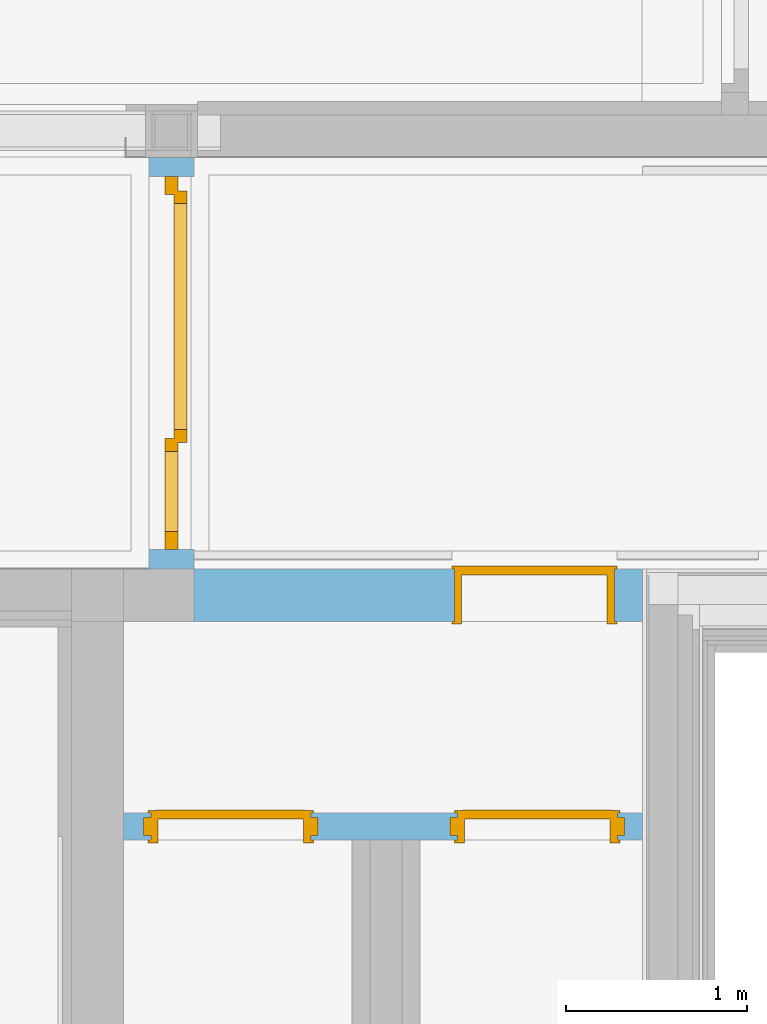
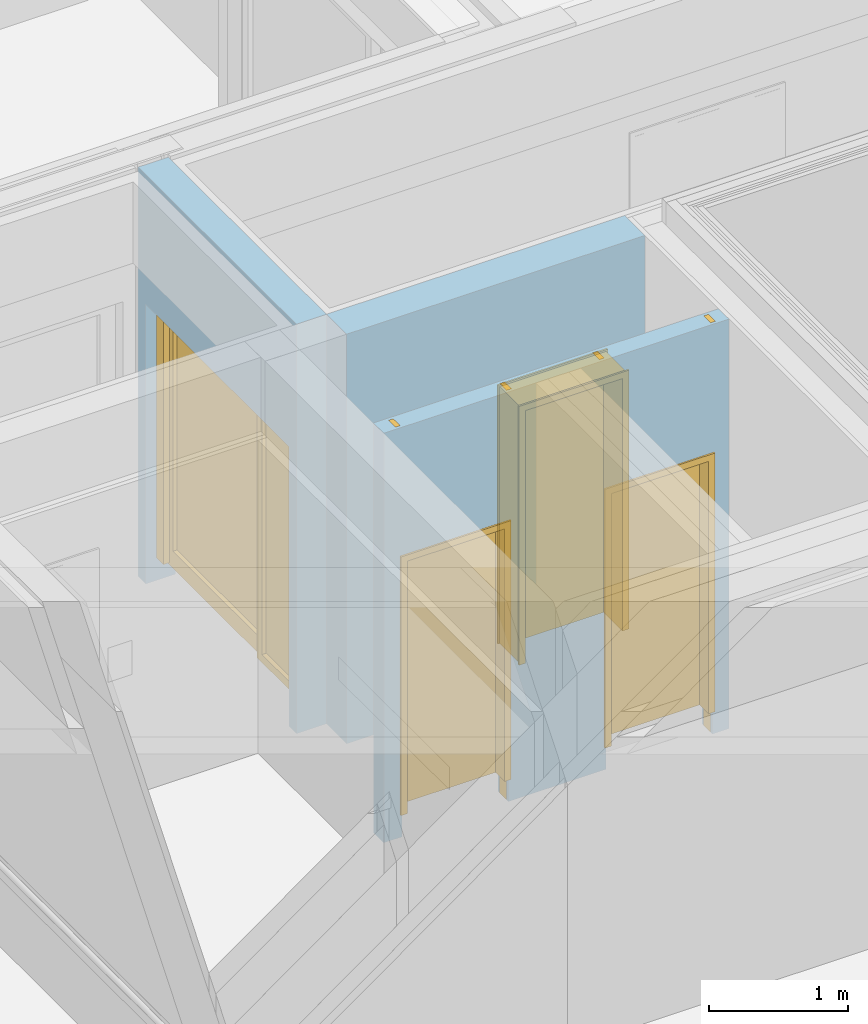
# One storey, part 102 of 207: 4 doors, 4 openings, plus 3 elements that do not belong to this part.
"""IFC4 building model written with IfcOpenShell, lengths in metres."""

from ifc_helpers import new_model, entity, si_unit, converted_unit, derived_unit, frame, frame_2d, origin, origin_with_axes, place, context, subcontext, project, spatial, polyline, rectangle, outline, extrude, closed_shell, open_shell, faceted_brep, surface_model, source, transform, mapped, material, type_object, element, fill, save


model = new_model("IFC4")

# Units and contexts
model_context = context("Model", 3, precision=1e-05, world=origin())
body_context = subcontext(model_context, "Body", "Model", "MODEL_VIEW")
ifc_project = project(units=[si_unit("LENGTHUNIT", "METRE"), si_unit("AREAUNIT", "SQUARE_METRE"), si_unit("VOLUMEUNIT", "CUBIC_METRE"), si_unit("MASSUNIT", "GRAM", prefix="KILO"), converted_unit("PLANEANGLEUNIT", "DEGREE", entity("IfcPlaneAngleMeasure", 0.0174532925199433), si_unit("PLANEANGLEUNIT", "RADIAN"), dimensions=[0, 0, 0, 0, 0, 0, 0]), derived_unit("THERMALTRANSMITTANCEUNIT", [(si_unit("POWERUNIT", "WATT"), 1), (si_unit("THERMODYNAMICTEMPERATUREUNIT", "KELVIN"), -1), (si_unit("LENGTHUNIT", "METRE"), -2)]), derived_unit("VOLUMETRICFLOWRATEUNIT", [(si_unit("LENGTHUNIT", "METRE"), 3), (converted_unit("TIMEUNIT", "hour", entity("IfcTimeMeasure", 3600.0), si_unit("TIMEUNIT", "SECOND"), dimensions=[0, 0, 1, 0, 0, 0, 0]), -1), (si_unit("LENGTHUNIT", "METRE"), -1)])], contexts=[model_context])

# Site, building, storey
site_placement = place(None, origin())
site = spatial("IfcSite", under=ifc_project, at=site_placement, Name="Psychiatrie Neubau Wunstorf", CompositionType="ELEMENT")
building_placement = place(site_placement, origin())
building = spatial("IfcBuilding", under=site, at=building_placement, Name="Neubau H2 Stationsgebäude", CompositionType="ELEMENT")
storey_placement = place(building_placement, frame((0.0, 0.0, -0.2)))
storey = spatial("IfcBuildingStorey", under=building, at=storey_placement, Name="H2 Ebene 0", CompositionType="ELEMENT", Elevation=-0.2)

# Wall, openings, doors
ifc_material_1 = material(Name="WI-LB")
wall_1_placement = place(storey_placement, frame((43.9390000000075, 19.2350060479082, 0.0), z_axis=(0.0, 0.0, 1.0), x_axis=(-1.0, 0.0, 0.0)))
wall_1 = element("IfcWall", 1, at=wall_1_placement, inside=storey, material=ifc_material_1, context=body_context, shape_type="SweptSolid", body=[
    extrude(rectangle(XDim=2.87, YDim=0.15, at=frame_2d((1.435, 0.075), x_axis=(1.0, 0.0))), origin_with_axes(), (0.0, 0.0, 1.0), 3.6),
])
opening_1_placement = place(wall_1_placement, frame((2.72, 0.15, 0.0), z_axis=(0.0, -1.0, 0.0), x_axis=(0.0, 0.0, 1.0)))
opening_1 = element("IfcOpeningElement", 2, at=opening_1_placement, cuts=wall_1, Name="Türöffnung", ObjectType="Opening", context=body_context, shape_type="SweptSolid", body=[
    extrude(outline(polyline([(2.46, 0.885), (2.46, 0.0), (0.0, 0.0), (0.0, 0.885), (2.46, 0.885)])), origin_with_axes(), (0.0, 0.0, 1.0), 0.15),
])
opening_2_placement = place(wall_1_placement, frame((1.024, 0.15, 0.0), z_axis=(0.0, -1.0, 0.0), x_axis=(0.0, 0.0, 1.0)))
opening_2 = element("IfcOpeningElement", 3, at=opening_2_placement, cuts=wall_1, Name="Türöffnung", ObjectType="Opening", context=body_context, shape_type="SweptSolid", body=[
    extrude(outline(polyline([(2.46, 0.885), (2.46, 0.0), (0.0, 0.0), (0.0, 0.885), (2.46, 0.885)])), origin_with_axes(), (0.0, 0.0, 1.0), 0.15),
])
ifc_material_2 = material(Name="TI-1F-UZ-D-N")
door_type_1 = type_object("IfcDoorType", Name="SMT", OperationType="SINGLE_SWING_RIGHT", ParameterTakesPrecedence=False, PredefinedType="DOOR")
shared_shape_1 = source(origin_with_axes(), body_context, "Body", "Brep", [
    faceted_brep([(0.925, 0.025, 0.0), (0.925, 0.125, 0.0), (0.885, 0.125, 0.0), (0.885, 0.025, 0.0), (0.925, 0.125, 3.6), (0.925, 0.025, 3.6), (0.885, 0.025, 3.6), (0.885, 0.125, 3.6)], [[[0, 1, 2, 3]], [[4, 5, 6, 7]], [[1, 0, 5, 4]], [[2, 1, 4, 7]], [[3, 2, 7, 6]], [[0, 3, 6, 5]]], orient=[[False], [False], [False], [False], [False], [False]]),
    faceted_brep([(0.0, 0.025, 0.0), (0.0, 0.125, 0.0), (-0.04, 0.125, 0.0), (-0.04, 0.025, 0.0), (0.0, 0.125, 3.6), (0.0, 0.025, 3.6), (-0.04, 0.025, 3.6), (-0.04, 0.125, 3.6)], [[[0, 1, 2, 3]], [[4, 5, 6, 7]], [[1, 0, 5, 4]], [[2, 1, 4, 7]], [[3, 2, 7, 6]], [[0, 3, 6, 5]]], orient=[[False], [False], [False], [False], [False], [False]]),
    faceted_brep([(0.885, 0.025, 2.46), (0.885, 0.125, 2.46), (0.0, 0.125, 2.46), (0.0, 0.025, 2.46), (0.885, 0.125, 2.5), (0.885, 0.025, 2.5), (0.0, 0.025, 2.5), (0.0, 0.125, 2.5)], [[[0, 1, 2, 3]], [[4, 5, 6, 7]], [[1, 0, 5, 4]], [[2, 1, 4, 7]], [[3, 2, 7, 6]], [[0, 3, 6, 5]]], orient=[[False], [False], [False], [False], [False], [False]]),
])
shared_shape_2 = source(origin_with_axes(), body_context, "Body", "Brep", [
    faceted_brep([(0.0, -0.015, 2.46), (0.04, -0.015, 2.46), (0.04, -0.015, 0.2), (0.0, -0.015, 0.2), (0.0, 0.165, 0.2), (0.04, 0.165, 0.2), (0.04, 0.165, 2.46), (0.0, 0.165, 2.46)], [[[0, 1, 2, 3]], [[4, 5, 6, 7]], [[3, 4, 7, 0]], [[2, 5, 4, 3]], [[1, 6, 5, 2]], [[0, 7, 6, 1]]], orient=[[False], [False], [False], [False], [False], [False]]),
    faceted_brep([(0.0, -0.015, 2.475), (0.0, -0.015, 0.2), (-0.015, -0.015, 0.2), (-0.015, -0.015, 2.475), (0.0, 0.0, 0.2), (0.0, 0.0, 2.475), (-0.015, 0.0, 2.475), (-0.015, 0.0, 0.2)], [[[0, 1, 2, 3]], [[4, 5, 6, 7]], [[1, 0, 5, 4]], [[2, 1, 4, 7]], [[3, 2, 7, 6]], [[0, 3, 6, 5]]], orient=[[False], [False], [False], [False], [False], [False]]),
    faceted_brep([(0.0, 0.15, 2.475), (0.0, 0.15, 0.2), (-0.015, 0.15, 0.2), (-0.015, 0.15, 2.475), (0.0, 0.165, 0.2), (0.0, 0.165, 2.475), (-0.015, 0.165, 2.475), (-0.015, 0.165, 0.2)], [[[0, 1, 2, 3]], [[4, 5, 6, 7]], [[1, 0, 5, 4]], [[2, 1, 4, 7]], [[3, 2, 7, 6]], [[0, 3, 6, 5]]], orient=[[False], [False], [False], [False], [False], [False]]),
    faceted_brep([(0.845, -0.015, 2.46), (0.885, -0.015, 2.46), (0.885, -0.015, 0.2), (0.845, -0.015, 0.2), (0.845, 0.165, 0.2), (0.885, 0.165, 0.2), (0.885, 0.165, 2.46), (0.845, 0.165, 2.46)], [[[0, 1, 2, 3]], [[4, 5, 6, 7]], [[3, 4, 7, 0]], [[2, 5, 4, 3]], [[1, 6, 5, 2]], [[0, 7, 6, 1]]], orient=[[False], [False], [False], [False], [False], [False]]),
    faceted_brep([(0.885, -0.015, 2.475), (0.9, -0.015, 2.475), (0.9, -0.015, 0.2), (0.885, -0.015, 0.2), (0.885, 0.0, 0.2), (0.9, 0.0, 0.2), (0.9, 0.0, 2.475), (0.885, 0.0, 2.475)], [[[0, 1, 2, 3]], [[4, 5, 6, 7]], [[3, 4, 7, 0]], [[2, 5, 4, 3]], [[1, 6, 5, 2]], [[0, 7, 6, 1]]], orient=[[False], [False], [False], [False], [False], [False]]),
    faceted_brep([(0.885, 0.15, 2.475), (0.9, 0.15, 2.475), (0.9, 0.15, 0.2), (0.885, 0.15, 0.2), (0.885, 0.165, 0.2), (0.9, 0.165, 0.2), (0.9, 0.165, 2.475), (0.885, 0.165, 2.475)], [[[0, 1, 2, 3]], [[4, 5, 6, 7]], [[3, 4, 7, 0]], [[2, 5, 4, 3]], [[1, 6, 5, 2]], [[0, 7, 6, 1]]], orient=[[False], [False], [False], [False], [False], [False]]),
    faceted_brep([(0.04, -0.015, 2.46), (0.845, -0.015, 2.46), (0.845, -0.015, 2.42), (0.04, -0.015, 2.42), (0.04, 0.165, 2.42), (0.845, 0.165, 2.42), (0.845, 0.165, 2.46), (0.04, 0.165, 2.46)], [[[0, 1, 2, 3]], [[4, 5, 6, 7]], [[3, 4, 7, 0]], [[2, 5, 4, 3]], [[1, 6, 5, 2]], [[0, 7, 6, 1]]], orient=[[False], [False], [False], [False], [False], [False]]),
    faceted_brep([(0.0, -0.015, 2.475), (0.885, -0.015, 2.475), (0.885, -0.015, 2.46), (0.0, -0.015, 2.46), (0.0, 0.0, 2.46), (0.885, 0.0, 2.46), (0.885, 0.0, 2.475), (0.0, 0.0, 2.475)], [[[0, 1, 2, 3]], [[4, 5, 6, 7]], [[3, 4, 7, 0]], [[2, 5, 4, 3]], [[1, 6, 5, 2]], [[0, 7, 6, 1]]], orient=[[False], [False], [False], [False], [False], [False]]),
    faceted_brep([(0.0, 0.15, 2.475), (0.885, 0.15, 2.475), (0.885, 0.15, 2.46), (0.0, 0.15, 2.46), (0.0, 0.165, 2.46), (0.885, 0.165, 2.46), (0.885, 0.165, 2.475), (0.0, 0.165, 2.475)], [[[0, 1, 2, 3]], [[4, 5, 6, 7]], [[3, 4, 7, 0]], [[2, 5, 4, 3]], [[1, 6, 5, 2]], [[0, 7, 6, 1]]], orient=[[False], [False], [False], [False], [False], [False]]),
    faceted_brep([(0.025, 0.116, 2.435), (0.86, 0.116, 2.435), (0.86, 0.116, 0.2), (0.025, 0.116, 0.2), (0.025, 0.166, 0.2), (0.86, 0.166, 0.2), (0.86, 0.166, 2.435), (0.025, 0.166, 2.435)], [[[0, 1, 2, 3]], [[4, 5, 6, 7]], [[3, 4, 7, 0]], [[2, 5, 4, 3]], [[1, 6, 5, 2]], [[0, 7, 6, 1]]], orient=[[False], [False], [False], [False], [False], [False]]),
])
door_1_placement = place(opening_1_placement, frame((0.0, 0.0, 0.0), z_axis=(1.0, 0.0, 0.0), x_axis=(0.0, 1.0, 0.0)))
door_1 = element("IfcDoor", 4, at=door_1_placement, inside=storey, type_object=door_type_1, material=ifc_material_2, Name="SMT", OverallHeight=2.46, OverallWidth=0.885, context=body_context, shape_type="MappedRepresentation", body=[
    mapped(shared_shape_1, transform((0.0, 0.0, 0.0), x_axis=(1.0, 0.0, 0.0), y_axis=(0.0, 1.0, 0.0), z_axis=(0.0, 0.0, 1.0), scale=1.0)),
    mapped(shared_shape_2, transform((0.0, 0.0, 0.0), x_axis=(1.0, 0.0, 0.0), y_axis=(0.0, 1.0, 0.0), z_axis=(0.0, 0.0, 1.0), scale=1.0)),
])
fill(opening_1, door_1)
ifc_material_3 = material(Name="TI-1F-UZ-D-N")
door_type_2 = type_object("IfcDoorType", Name="SMT", OperationType="SINGLE_SWING_RIGHT", ParameterTakesPrecedence=False, PredefinedType="DOOR")
shared_shape_3 = source(origin_with_axes(), body_context, "Body", "Brep", [
    faceted_brep([(0.925, 0.025, 0.0), (0.925, 0.125, 0.0), (0.885, 0.125, 0.0), (0.885, 0.025, 0.0), (0.925, 0.125, 3.6), (0.925, 0.025, 3.6), (0.885, 0.025, 3.6), (0.885, 0.125, 3.6)], [[[0, 1, 2, 3]], [[4, 5, 6, 7]], [[1, 0, 5, 4]], [[2, 1, 4, 7]], [[3, 2, 7, 6]], [[0, 3, 6, 5]]], orient=[[False], [False], [False], [False], [False], [False]]),
    faceted_brep([(0.0, 0.025, 0.0), (0.0, 0.125, 0.0), (-0.04, 0.125, 0.0), (-0.04, 0.025, 0.0), (0.0, 0.125, 3.6), (0.0, 0.025, 3.6), (-0.04, 0.025, 3.6), (-0.04, 0.125, 3.6)], [[[0, 1, 2, 3]], [[4, 5, 6, 7]], [[1, 0, 5, 4]], [[2, 1, 4, 7]], [[3, 2, 7, 6]], [[0, 3, 6, 5]]], orient=[[False], [False], [False], [False], [False], [False]]),
    faceted_brep([(0.885, 0.025, 2.46), (0.885, 0.125, 2.46), (0.0, 0.125, 2.46), (0.0, 0.025, 2.46), (0.885, 0.125, 2.5), (0.885, 0.025, 2.5), (0.0, 0.025, 2.5), (0.0, 0.125, 2.5)], [[[0, 1, 2, 3]], [[4, 5, 6, 7]], [[1, 0, 5, 4]], [[2, 1, 4, 7]], [[3, 2, 7, 6]], [[0, 3, 6, 5]]], orient=[[False], [False], [False], [False], [False], [False]]),
])
shared_shape_4 = source(origin_with_axes(), body_context, "Body", "Brep", [
    faceted_brep([(0.885, -0.015, 2.46), (0.885, -0.015, 0.2), (0.845, -0.015, 0.2), (0.845, -0.015, 2.46), (0.885, 0.165, 0.2), (0.885, 0.165, 2.46), (0.845, 0.165, 2.46), (0.845, 0.165, 0.2)], [[[0, 1, 2, 3]], [[4, 5, 6, 7]], [[1, 0, 5, 4]], [[2, 1, 4, 7]], [[3, 2, 7, 6]], [[0, 3, 6, 5]]], orient=[[False], [False], [False], [False], [False], [False]]),
    faceted_brep([(0.885, -0.015, 2.475), (0.9, -0.015, 2.475), (0.9, -0.015, 0.2), (0.885, -0.015, 0.2), (0.885, 0.0, 0.2), (0.9, 0.0, 0.2), (0.9, 0.0, 2.475), (0.885, 0.0, 2.475)], [[[0, 1, 2, 3]], [[4, 5, 6, 7]], [[3, 4, 7, 0]], [[2, 5, 4, 3]], [[1, 6, 5, 2]], [[0, 7, 6, 1]]], orient=[[False], [False], [False], [False], [False], [False]]),
    faceted_brep([(0.885, 0.15, 2.475), (0.9, 0.15, 2.475), (0.9, 0.15, 0.2), (0.885, 0.15, 0.2), (0.885, 0.165, 0.2), (0.9, 0.165, 0.2), (0.9, 0.165, 2.475), (0.885, 0.165, 2.475)], [[[0, 1, 2, 3]], [[4, 5, 6, 7]], [[3, 4, 7, 0]], [[2, 5, 4, 3]], [[1, 6, 5, 2]], [[0, 7, 6, 1]]], orient=[[False], [False], [False], [False], [False], [False]]),
    faceted_brep([(0.04, -0.015, 2.46), (0.04, -0.015, 0.2), (0.0, -0.015, 0.2), (0.0, -0.015, 2.46), (0.04, 0.165, 0.2), (0.04, 0.165, 2.46), (0.0, 0.165, 2.46), (0.0, 0.165, 0.2)], [[[0, 1, 2, 3]], [[4, 5, 6, 7]], [[1, 0, 5, 4]], [[2, 1, 4, 7]], [[3, 2, 7, 6]], [[0, 3, 6, 5]]], orient=[[False], [False], [False], [False], [False], [False]]),
    faceted_brep([(0.0, -0.015, 2.475), (0.0, -0.015, 0.2), (-0.015, -0.015, 0.2), (-0.015, -0.015, 2.475), (0.0, 0.0, 0.2), (0.0, 0.0, 2.475), (-0.015, 0.0, 2.475), (-0.015, 0.0, 0.2)], [[[0, 1, 2, 3]], [[4, 5, 6, 7]], [[1, 0, 5, 4]], [[2, 1, 4, 7]], [[3, 2, 7, 6]], [[0, 3, 6, 5]]], orient=[[False], [False], [False], [False], [False], [False]]),
    faceted_brep([(0.0, 0.15, 2.475), (0.0, 0.15, 0.2), (-0.015, 0.15, 0.2), (-0.015, 0.15, 2.475), (0.0, 0.165, 0.2), (0.0, 0.165, 2.475), (-0.015, 0.165, 2.475), (-0.015, 0.165, 0.2)], [[[0, 1, 2, 3]], [[4, 5, 6, 7]], [[1, 0, 5, 4]], [[2, 1, 4, 7]], [[3, 2, 7, 6]], [[0, 3, 6, 5]]], orient=[[False], [False], [False], [False], [False], [False]]),
    faceted_brep([(0.845, -0.015, 2.46), (0.845, -0.015, 2.42), (0.04, -0.015, 2.42), (0.04, -0.015, 2.46), (0.845, 0.165, 2.42), (0.845, 0.165, 2.46), (0.04, 0.165, 2.46), (0.04, 0.165, 2.42)], [[[0, 1, 2, 3]], [[4, 5, 6, 7]], [[1, 0, 5, 4]], [[2, 1, 4, 7]], [[3, 2, 7, 6]], [[0, 3, 6, 5]]], orient=[[False], [False], [False], [False], [False], [False]]),
    faceted_brep([(0.885, -0.015, 2.475), (0.885, -0.015, 2.46), (0.0, -0.015, 2.46), (0.0, -0.015, 2.475), (0.885, 0.0, 2.46), (0.885, 0.0, 2.475), (0.0, 0.0, 2.475), (0.0, 0.0, 2.46)], [[[0, 1, 2, 3]], [[4, 5, 6, 7]], [[1, 0, 5, 4]], [[2, 1, 4, 7]], [[3, 2, 7, 6]], [[0, 3, 6, 5]]], orient=[[False], [False], [False], [False], [False], [False]]),
    faceted_brep([(0.885, 0.15, 2.475), (0.885, 0.15, 2.46), (0.0, 0.15, 2.46), (0.0, 0.15, 2.475), (0.885, 0.165, 2.46), (0.885, 0.165, 2.475), (0.0, 0.165, 2.475), (0.0, 0.165, 2.46)], [[[0, 1, 2, 3]], [[4, 5, 6, 7]], [[1, 0, 5, 4]], [[2, 1, 4, 7]], [[3, 2, 7, 6]], [[0, 3, 6, 5]]], orient=[[False], [False], [False], [False], [False], [False]]),
    faceted_brep([(0.86, 0.116, 2.435), (0.86, 0.116, 0.2), (0.025, 0.116, 0.2), (0.025, 0.116, 2.435), (0.86, 0.166, 0.2), (0.86, 0.166, 2.435), (0.025, 0.166, 2.435), (0.025, 0.166, 0.2)], [[[0, 1, 2, 3]], [[4, 5, 6, 7]], [[1, 0, 5, 4]], [[2, 1, 4, 7]], [[3, 2, 7, 6]], [[0, 3, 6, 5]]], orient=[[False], [False], [False], [False], [False], [False]]),
])
door_2_placement = place(opening_2_placement, frame((0.0, 0.0, 0.0), z_axis=(1.0, 0.0, 0.0), x_axis=(0.0, 1.0, 0.0)))
door_2 = element("IfcDoor", 5, at=door_2_placement, inside=storey, type_object=door_type_2, material=ifc_material_3, Name="SMT", OverallHeight=2.46, OverallWidth=0.885, context=body_context, shape_type="MappedRepresentation", body=[
    mapped(shared_shape_3, transform((0.0, 0.0, 0.0), x_axis=(1.0, 0.0, 0.0), y_axis=(0.0, 1.0, 0.0), z_axis=(0.0, 0.0, 1.0), scale=1.0)),
    mapped(shared_shape_4, transform((0.0, 0.0, 0.0), x_axis=(1.0, 0.0, 0.0), y_axis=(0.0, 1.0, 0.0), z_axis=(0.0, 0.0, 1.0), scale=1.0)),
])
fill(opening_2, door_2)

# Wall, opening, door
ifc_material_4 = material(Name="WI-HW 60")
wall_2_placement = place(storey_placement, frame((43.9390000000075, 20.5859980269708, 0.0), z_axis=(0.0, 0.0, 1.0), x_axis=(-1.0, 0.0, 0.0)))
wall_2 = element("IfcWall", 6, at=wall_2_placement, inside=storey, material=ifc_material_4, context=body_context, shape_type="SweptSolid", body=[
    extrude(rectangle(XDim=2.48100000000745, YDim=0.29, at=frame_2d((1.24050000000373, 0.145), x_axis=(1.0, 0.0))), origin_with_axes(), (0.0, 0.0, 1.0), 3.6),
])
opening_3_placement = place(wall_2_placement, frame((0.154976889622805, 0.0, 0.0), z_axis=(0.0, 1.0, 0.0), x_axis=(0.0, 0.0, 1.0)))
opening_3 = element("IfcOpeningElement", 7, at=opening_3_placement, cuts=wall_2, Name="Türöffnung", ObjectType="Opening", context=body_context, shape_type="SweptSolid", body=[
    extrude(outline(polyline([(2.46, 0.885), (2.46, 0.0), (0.0, 0.0), (0.0, 0.885), (2.46, 0.885)])), origin_with_axes(), (0.0, 0.0, 1.0), 0.29),
])
ifc_material_5 = material(Name="TI-1F-UZ-D")
door_type_3 = type_object("IfcDoorType", Name="SMT", OperationType="SINGLE_SWING_RIGHT", ParameterTakesPrecedence=False, PredefinedType="DOOR")
shared_shape_5 = source(origin_with_axes(), body_context, "Body", "Brep", [
    faceted_brep([(0.885, -0.015, 2.46), (0.885, -0.015, 0.2), (0.845, -0.015, 0.2), (0.845, -0.015, 2.46), (0.885, 0.305, 0.2), (0.885, 0.305, 2.46), (0.845, 0.305, 2.46), (0.845, 0.305, 0.2)], [[[0, 1, 2, 3]], [[4, 5, 6, 7]], [[1, 0, 5, 4]], [[2, 1, 4, 7]], [[3, 2, 7, 6]], [[0, 3, 6, 5]]], orient=[[False], [False], [False], [False], [False], [False]]),
    faceted_brep([(0.885, -0.015, 2.475), (0.9, -0.015, 2.475), (0.9, -0.015, 0.2), (0.885, -0.015, 0.2), (0.885, 0.0, 0.2), (0.9, 0.0, 0.2), (0.9, 0.0, 2.475), (0.885, 0.0, 2.475)], [[[0, 1, 2, 3]], [[4, 5, 6, 7]], [[3, 4, 7, 0]], [[2, 5, 4, 3]], [[1, 6, 5, 2]], [[0, 7, 6, 1]]], orient=[[False], [False], [False], [False], [False], [False]]),
    faceted_brep([(0.885, 0.29, 2.475), (0.9, 0.29, 2.475), (0.9, 0.29, 0.2), (0.885, 0.29, 0.2), (0.885, 0.305, 0.2), (0.9, 0.305, 0.2), (0.9, 0.305, 2.475), (0.885, 0.305, 2.475)], [[[0, 1, 2, 3]], [[4, 5, 6, 7]], [[3, 4, 7, 0]], [[2, 5, 4, 3]], [[1, 6, 5, 2]], [[0, 7, 6, 1]]], orient=[[False], [False], [False], [False], [False], [False]]),
    faceted_brep([(0.04, -0.015, 2.46), (0.04, -0.015, 0.2), (0.0, -0.015, 0.2), (0.0, -0.015, 2.46), (0.04, 0.305, 0.2), (0.04, 0.305, 2.46), (0.0, 0.305, 2.46), (0.0, 0.305, 0.2)], [[[0, 1, 2, 3]], [[4, 5, 6, 7]], [[1, 0, 5, 4]], [[2, 1, 4, 7]], [[3, 2, 7, 6]], [[0, 3, 6, 5]]], orient=[[False], [False], [False], [False], [False], [False]]),
    faceted_brep([(0.0, -0.015, 2.475), (0.0, -0.015, 0.2), (-0.015, -0.015, 0.2), (-0.015, -0.015, 2.475), (0.0, 0.0, 0.2), (0.0, 0.0, 2.475), (-0.015, 0.0, 2.475), (-0.015, 0.0, 0.2)], [[[0, 1, 2, 3]], [[4, 5, 6, 7]], [[1, 0, 5, 4]], [[2, 1, 4, 7]], [[3, 2, 7, 6]], [[0, 3, 6, 5]]], orient=[[False], [False], [False], [False], [False], [False]]),
    faceted_brep([(0.0, 0.29, 2.475), (0.0, 0.29, 0.2), (-0.015, 0.29, 0.2), (-0.015, 0.29, 2.475), (0.0, 0.305, 0.2), (0.0, 0.305, 2.475), (-0.015, 0.305, 2.475), (-0.015, 0.305, 0.2)], [[[0, 1, 2, 3]], [[4, 5, 6, 7]], [[1, 0, 5, 4]], [[2, 1, 4, 7]], [[3, 2, 7, 6]], [[0, 3, 6, 5]]], orient=[[False], [False], [False], [False], [False], [False]]),
    faceted_brep([(0.845, -0.015, 2.46), (0.845, -0.015, 2.42), (0.04, -0.015, 2.42), (0.04, -0.015, 2.46), (0.845, 0.305, 2.42), (0.845, 0.305, 2.46), (0.04, 0.305, 2.46), (0.04, 0.305, 2.42)], [[[0, 1, 2, 3]], [[4, 5, 6, 7]], [[1, 0, 5, 4]], [[2, 1, 4, 7]], [[3, 2, 7, 6]], [[0, 3, 6, 5]]], orient=[[False], [False], [False], [False], [False], [False]]),
    faceted_brep([(0.885, -0.015, 2.475), (0.885, -0.015, 2.46), (0.0, -0.015, 2.46), (0.0, -0.015, 2.475), (0.885, 0.0, 2.46), (0.885, 0.0, 2.475), (0.0, 0.0, 2.475), (0.0, 0.0, 2.46)], [[[0, 1, 2, 3]], [[4, 5, 6, 7]], [[1, 0, 5, 4]], [[2, 1, 4, 7]], [[3, 2, 7, 6]], [[0, 3, 6, 5]]], orient=[[False], [False], [False], [False], [False], [False]]),
    faceted_brep([(0.885, 0.29, 2.475), (0.885, 0.29, 2.46), (0.0, 0.29, 2.46), (0.0, 0.29, 2.475), (0.885, 0.305, 2.46), (0.885, 0.305, 2.475), (0.0, 0.305, 2.475), (0.0, 0.305, 2.46)], [[[0, 1, 2, 3]], [[4, 5, 6, 7]], [[1, 0, 5, 4]], [[2, 1, 4, 7]], [[3, 2, 7, 6]], [[0, 3, 6, 5]]], orient=[[False], [False], [False], [False], [False], [False]]),
    faceted_brep([(0.86, 0.256, 2.435), (0.86, 0.256, 0.2), (0.025, 0.256, 0.2), (0.025, 0.256, 2.435), (0.86, 0.306, 0.2), (0.86, 0.306, 2.435), (0.025, 0.306, 2.435), (0.025, 0.306, 0.2)], [[[0, 1, 2, 3]], [[4, 5, 6, 7]], [[1, 0, 5, 4]], [[2, 1, 4, 7]], [[3, 2, 7, 6]], [[0, 3, 6, 5]]], orient=[[False], [False], [False], [False], [False], [False]]),
])
door_3_placement = place(opening_3_placement, frame((0.0, 0.885, 0.29), z_axis=(1.0, 0.0, 0.0), x_axis=(0.0, -1.0, 0.0)))
door_3 = element("IfcDoor", 8, at=door_3_placement, inside=storey, type_object=door_type_3, material=ifc_material_5, Name="SMT", OverallHeight=2.46, OverallWidth=0.885, context=body_context, shape_type="MappedRepresentation", body=[
    mapped(shared_shape_5, transform((0.0, 0.0, 0.0), x_axis=(1.0, 0.0, 0.0), y_axis=(0.0, 1.0, 0.0), z_axis=(0.0, 0.0, 1.0), scale=1.0)),
])
fill(opening_3, door_3)

ifc_material_6 = material(Name="WI-LW 60")
wall_3_placement = place(storey_placement, frame((41.208, 22.8639990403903, 0.0), z_axis=(0.0, 0.0, 1.0), x_axis=(0.0, -1.0, 0.0)))
wall_3 = element("IfcWall", 9, at=wall_3_placement, inside=storey, material=ifc_material_6, context=body_context, shape_type="SweptSolid", body=[
    extrude(rectangle(XDim=2.27800101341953, YDim=0.25, at=frame_2d((1.13900050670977, 0.125), x_axis=(1.0, 0.0))), origin_with_axes(), (0.0, 0.0, 1.0), 3.6),
])
opening_4_placement = place(wall_3_placement, frame((0.107500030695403, 0.0, 0.0), z_axis=(0.0, 1.0, 0.0), x_axis=(0.0, 0.0, 1.0)))
opening_4 = element("IfcOpeningElement", 10, at=opening_4_placement, cuts=wall_3, Name="Türöffnung", ObjectType="Opening", context=body_context, shape_type="SweptSolid", body=[
    extrude(outline(polyline([(2.46, 2.063), (2.46, 0.0), (0.0, 0.0), (0.0, 2.063), (2.46, 2.063)])), origin_with_axes(), (0.0, 0.0, 1.0), 0.25),
])
ifc_material_7 = material(Name="TI-1F-SG-D-M")
shared_shape_6 = source(origin_with_axes(), body_context, "Body", "Brep", [
    faceted_brep([(-0.107499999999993, 0.114999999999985, 0.0), (-0.107499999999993, -0.0450000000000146, 0.0), (-0.0274999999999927, -0.0450000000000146, 0.0), (-0.0274999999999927, 0.114999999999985, 0.0), (-0.107499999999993, -0.0450000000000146, 3.6), (-0.107499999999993, 0.114999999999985, 3.6), (-0.0274999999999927, 0.114999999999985, 3.6), (-0.0274999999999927, -0.0450000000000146, 3.6)], [[[0, 1, 2, 3]], [[4, 5, 6, 7]], [[1, 0, 5, 4]], [[2, 1, 4, 7]], [[3, 2, 7, 6]], [[0, 3, 6, 5]]], orient=[[False], [False], [False], [False], [False], [False]]),
    faceted_brep([(2.09050000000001, 0.114999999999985, 0.0), (2.09050000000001, -0.0450000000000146, 0.0), (2.17050000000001, -0.0450000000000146, 0.0), (2.17050000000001, 0.114999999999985, 0.0), (2.09050000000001, -0.0450000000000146, 3.6), (2.09050000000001, 0.114999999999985, 3.6), (2.17050000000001, 0.114999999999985, 3.6), (2.17050000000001, -0.0450000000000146, 3.6)], [[[0, 1, 2, 3]], [[4, 5, 6, 7]], [[1, 0, 5, 4]], [[2, 1, 4, 7]], [[3, 2, 7, 6]], [[0, 3, 6, 5]]], orient=[[False], [False], [False], [False], [False], [False]]),
    faceted_brep([(-0.0274999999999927, 0.114999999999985, 2.4875), (-0.0274999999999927, -0.0450000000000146, 2.4875), (2.09050000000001, -0.0450000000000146, 2.4875), (2.09050000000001, 0.114999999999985, 2.4875), (-0.0274999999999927, -0.0450000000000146, 2.5675), (-0.0274999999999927, 0.114999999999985, 2.5675), (2.09050000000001, 0.114999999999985, 2.5675), (2.09050000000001, -0.0450000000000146, 2.5675)], [[[0, 1, 2, 3]], [[4, 5, 6, 7]], [[1, 0, 5, 4]], [[2, 1, 4, 7]], [[3, 2, 7, 6]], [[0, 3, 6, 5]]], orient=[[False], [False], [False], [False], [False], [False]]),
])
shared_shape_7 = source(origin_with_axes(), body_context, "Body", "SurfaceModel", [
    surface_model("IfcShellBasedSurfaceModel", [(0.0, 0.0, 2.46), (0.100000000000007, 0.0, 2.46), (0.100000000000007, 0.0, 0.2), (0.0, 0.0, 0.2), (0.0, 0.0699999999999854, 0.2), (0.100000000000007, 0.0699999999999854, 0.2), (0.100000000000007, 0.0699999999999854, 2.46), (0.0, 0.0699999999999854, 2.46)], [closed_shell([[[0, 1, 2, 3]], [[4, 5, 6, 7]], [[3, 4, 7, 0]], [[2, 5, 4, 3]], [[1, 6, 5, 2]], [[0, 7, 6, 1]]], orient=[[False], [False], [False], [False], [False], [False]])]),
    surface_model("IfcShellBasedSurfaceModel", [(1.96300000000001, 0.0, 2.46), (2.06300000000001, 0.0, 2.46), (2.06300000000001, 0.0, 0.2), (1.96300000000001, 0.0, 0.2), (1.96300000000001, 0.0699999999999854, 0.2), (2.06300000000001, 0.0699999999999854, 0.2), (2.06300000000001, 0.0699999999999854, 2.46), (1.96300000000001, 0.0699999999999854, 2.46)], [closed_shell([[[0, 1, 2, 3]], [[4, 5, 6, 7]], [[3, 4, 7, 0]], [[2, 5, 4, 3]], [[1, 6, 5, 2]], [[0, 7, 6, 1]]], orient=[[False], [False], [False], [False], [False], [False]])]),
    surface_model("IfcShellBasedSurfaceModel", [(0.100000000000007, 0.0, 2.46), (1.96300000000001, 0.0, 2.46), (1.96300000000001, 0.0, 2.36), (0.100000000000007, 0.0, 2.36), (0.100000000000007, 0.0699999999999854, 2.36), (1.96300000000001, 0.0699999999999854, 2.36), (1.96300000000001, 0.0699999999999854, 2.46), (0.100000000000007, 0.0699999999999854, 2.46)], [closed_shell([[[0, 1, 2, 3]], [[4, 5, 6, 7]], [[3, 4, 7, 0]], [[2, 5, 4, 3]], [[1, 6, 5, 2]], [[0, 7, 6, 1]]], orient=[[False], [False], [False], [False], [False], [False]])]),
    surface_model("IfcShellBasedSurfaceModel", [(1.45000000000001, 0.0, 2.36), (1.52000000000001, 0.0, 2.36), (1.52000000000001, 0.0, 0.2), (1.45000000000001, 0.0, 0.2), (1.45000000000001, 0.0699999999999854, 0.2), (1.52000000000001, 0.0699999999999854, 0.2), (1.52000000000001, 0.0699999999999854, 2.36), (1.45000000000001, 0.0699999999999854, 2.36)], [closed_shell([[[0, 1, 2, 3]], [[4, 5, 6, 7]], [[3, 4, 7, 0]], [[2, 5, 4, 3]], [[1, 6, 5, 2]], [[0, 7, 6, 1]]], orient=[[False], [False], [False], [False], [False], [False]])]),
    surface_model("IfcShellBasedSurfaceModel", [(0.0800000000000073, 0.0499999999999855, 2.38), (0.150000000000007, 0.0499999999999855, 2.38), (0.150000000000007, 0.0499999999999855, 0.18), (0.0800000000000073, 0.0499999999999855, 0.18), (0.0800000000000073, 0.119999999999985, 0.18), (0.150000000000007, 0.119999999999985, 0.18), (0.150000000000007, 0.119999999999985, 2.38), (0.0800000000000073, 0.119999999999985, 2.38)], [closed_shell([[[0, 1, 2, 3]], [[4, 5, 6, 7]], [[3, 4, 7, 0]], [[2, 5, 4, 3]], [[1, 6, 5, 2]], [[0, 7, 6, 1]]], orient=[[False], [False], [False], [False], [False], [False]])]),
    surface_model("IfcShellBasedSurfaceModel", [(1.40000000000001, 0.0499999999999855, 2.38), (1.47000000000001, 0.0499999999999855, 2.38), (1.47000000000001, 0.0499999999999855, 0.18), (1.40000000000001, 0.0499999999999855, 0.18), (1.40000000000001, 0.119999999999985, 0.18), (1.47000000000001, 0.119999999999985, 0.18), (1.47000000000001, 0.119999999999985, 2.38), (1.40000000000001, 0.119999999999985, 2.38)], [closed_shell([[[0, 1, 2, 3]], [[4, 5, 6, 7]], [[3, 4, 7, 0]], [[2, 5, 4, 3]], [[1, 6, 5, 2]], [[0, 7, 6, 1]]], orient=[[False], [False], [False], [False], [False], [False]])]),
    surface_model("IfcShellBasedSurfaceModel", [(0.150000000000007, 0.0499999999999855, 0.33), (1.40000000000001, 0.0499999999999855, 0.33), (1.40000000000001, 0.0499999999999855, 0.18), (0.150000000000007, 0.0499999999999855, 0.18), (0.150000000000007, 0.119999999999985, 0.18), (1.40000000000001, 0.119999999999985, 0.18), (1.40000000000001, 0.119999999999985, 0.33), (0.150000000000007, 0.119999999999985, 0.33)], [closed_shell([[[0, 1, 2, 3]], [[4, 5, 6, 7]], [[3, 4, 7, 0]], [[2, 5, 4, 3]], [[1, 6, 5, 2]], [[0, 7, 6, 1]]], orient=[[False], [False], [False], [False], [False], [False]])]),
    surface_model("IfcShellBasedSurfaceModel", [(0.150000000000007, 0.0499999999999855, 2.38), (1.40000000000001, 0.0499999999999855, 2.38), (1.40000000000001, 0.0499999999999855, 2.31), (0.150000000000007, 0.0499999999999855, 2.31), (0.150000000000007, 0.119999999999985, 2.31), (1.40000000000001, 0.119999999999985, 2.31), (1.40000000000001, 0.119999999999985, 2.38), (0.150000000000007, 0.119999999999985, 2.38)], [closed_shell([[[0, 1, 2, 3]], [[4, 5, 6, 7]], [[3, 4, 7, 0]], [[2, 5, 4, 3]], [[1, 6, 5, 2]], [[0, 7, 6, 1]]], orient=[[False], [False], [False], [False], [False], [False]])]),
    surface_model("IfcShellBasedSurfaceModel", [(1.52000000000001, 0.0, 0.27), (1.96300000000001, 0.0, 0.27), (1.96300000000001, 0.0, 0.2), (1.52000000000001, 0.0, 0.2), (1.52000000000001, 0.0699999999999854, 0.2), (1.96300000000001, 0.0699999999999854, 0.2), (1.96300000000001, 0.0699999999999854, 0.27), (1.52000000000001, 0.0699999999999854, 0.27)], [closed_shell([[[0, 1, 2, 3]], [[4, 5, 6, 7]], [[3, 4, 7, 0]], [[2, 5, 4, 3]], [[1, 6, 5, 2]], [[0, 7, 6, 1]]], orient=[[False], [False], [False], [False], [False], [False]])]),
    surface_model("IfcShellBasedSurfaceModel", [(0.150000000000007, 0.0849999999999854, 0.33), (0.150000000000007, 0.0849999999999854, 2.31), (1.40000000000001, 0.0849999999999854, 2.31), (1.40000000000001, 0.0849999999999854, 0.33)], [open_shell([[[0, 1, 2, 3]]], orient=[[False]])]),
    surface_model("IfcShellBasedSurfaceModel", [(1.52000000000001, 0.0349999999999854, 0.27), (1.52000000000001, 0.0349999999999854, 2.36), (1.96300000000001, 0.0349999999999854, 2.36), (1.96300000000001, 0.0349999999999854, 0.27)], [open_shell([[[0, 1, 2, 3]]], orient=[[False]])]),
])
door_4_placement = place(opening_4_placement, frame((0.0, 0.0, 0.09), z_axis=(1.0, 0.0, 0.0), x_axis=(0.0, 1.0, 0.0)))
door_4 = element("IfcDoor", 11, at=door_4_placement, inside=storey, material=ifc_material_7, Name="SMT", OperationType="USERDEFINED", OverallHeight=2.46, OverallWidth=2.063, PredefinedType="DOOR", context=body_context, shape_type="MappedRepresentation", body=[
    mapped(shared_shape_6, transform((0.0, 0.0, 0.0), x_axis=(1.0, 0.0, 0.0), y_axis=(0.0, 1.0, 0.0), z_axis=(0.0, 0.0, 1.0), scale=1.0)),
    mapped(shared_shape_7, transform((0.0, 0.0, 0.0), x_axis=(1.0, 0.0, 0.0), y_axis=(0.0, 1.0, 0.0), z_axis=(0.0, 0.0, 1.0), scale=1.0)),
])
fill(opening_4, door_4)

save(model, "model.ifc")
